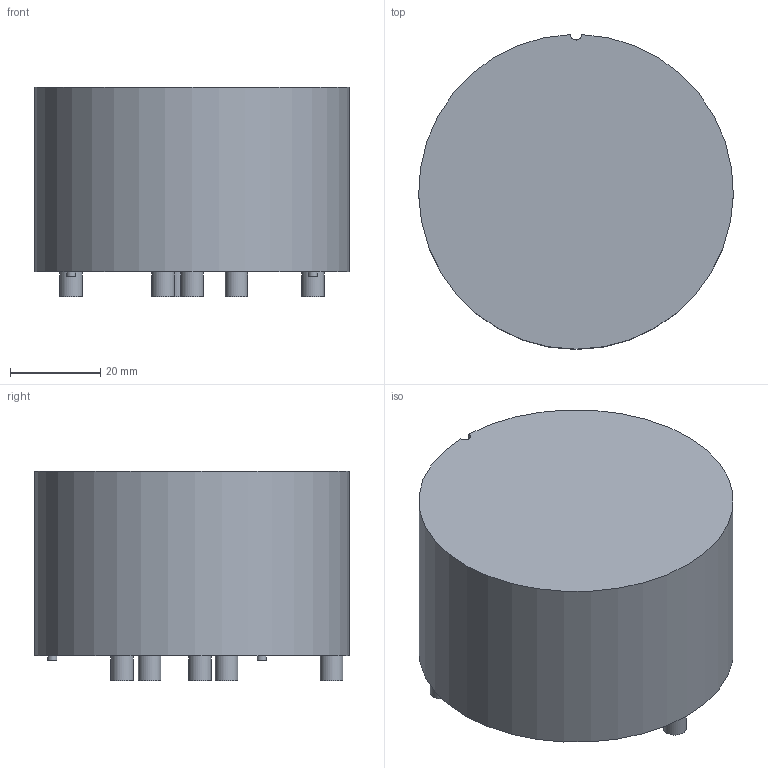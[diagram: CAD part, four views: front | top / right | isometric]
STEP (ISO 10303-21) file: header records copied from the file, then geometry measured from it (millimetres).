
FILE_DESCRIPTION(/* description */ (''),/* implementation_level */ '2;1');
FILE_NAME(/* name */ 'F:\2016年工作\2016年产品图纸\VAC\X2\4EA754C1\X0\3D模型\产品3D模型\6123-X363\6123-X363 3D model.stp',/* time_stamp */ '2016-06-24T10:08:33+08:00',/* author */ ('CN000560'),/* organization */ (''),/* preprocessor_version */ 'ST-DEVELOPER v16.1',/* originating_system */ 'Autodesk Inventor 2016',/* authorisation */ '');
FILE_SCHEMA (('AUTOMOTIVE_DESIGN { 1 0 10303 214 3 1 1 }'));
Length unit declared in the file: millimetre
Products named in the file (1): 6123-X363 3D model
Bounding box: 69.89 x 69.88 x 46.5 mm (x, y, z)
Volume: 157893.5 mm3; surface area: 17267.4 mm2
Topology: 1 solids, 1 shells, 22 faces, 33 edges, 22 vertices
Faces by surface type: cylinder 11, plane 11
Full cylindrical faces by diameter (mm): 2 x3, 5 x6
Entity records: 478 total; most frequent: DIRECTION 92, CARTESIAN_POINT 69, ORIENTED_EDGE 48, AXIS2_PLACEMENT_3D 45, EDGE_LOOP 40, EDGE_CURVE 24, FACE_OUTER_BOUND 22, CIRCLE 22
